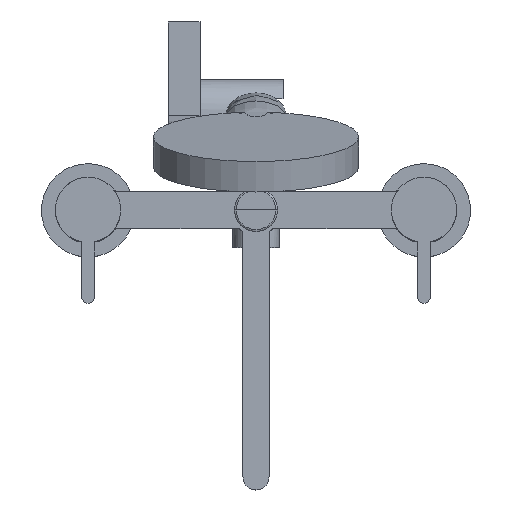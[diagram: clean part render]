
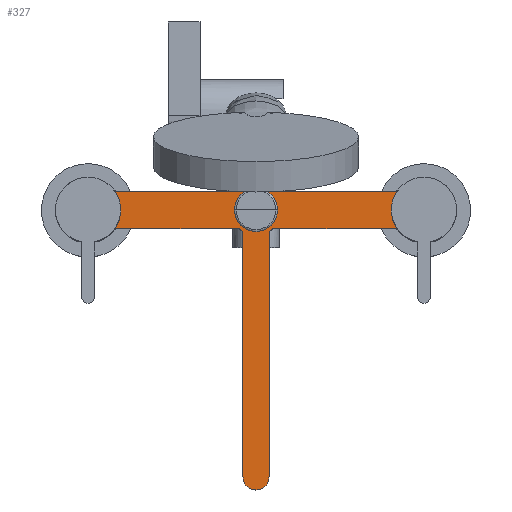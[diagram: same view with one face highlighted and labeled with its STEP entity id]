
A CAD part, top view. The second image highlights one B-rep face of the part: STEP entity #327.
In plain terms, the highlighted planar face has unit normal (0, 0, 1).
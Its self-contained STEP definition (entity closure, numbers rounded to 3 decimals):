
#327 = ADVANCED_FACE('',(#328),#469,.T.);
#328 = FACE_BOUND('',#329,.T.);
#329 = EDGE_LOOP('',(#330,#340,#349,#357,#366,#375,#384,#393,#401,#410,
    #419,#428,#437,#445,#454,#462));
#330 = ORIENTED_EDGE('',*,*,#331,.T.);
#331 = EDGE_CURVE('',#332,#334,#336,.T.);
#332 = VERTEX_POINT('',#333);
#333 = CARTESIAN_POINT('',(7.,-143.,120.));
#334 = VERTEX_POINT('',#335);
#335 = CARTESIAN_POINT('',(7.,-13.,
    120.));
#336 = LINE('',#337,#338);
#337 = CARTESIAN_POINT('',(7.,-143.,120.));
#338 = VECTOR('',#339,1.);
#339 = DIRECTION('',(0.,1.,0.));
#340 = ORIENTED_EDGE('',*,*,#341,.T.);
#341 = EDGE_CURVE('',#334,#342,#344,.T.);
#342 = VERTEX_POINT('',#343);
#343 = CARTESIAN_POINT('',(10.,-10.,
    120.));
#344 = CIRCLE('',#345,3.);
#345 = AXIS2_PLACEMENT_3D('',#346,#347,#348);
#346 = CARTESIAN_POINT('',(10.,-13.,
    120.));
#347 = DIRECTION('',(0.,0.,-1.));
#348 = DIRECTION('',(1.,0.,0.));
#349 = ORIENTED_EDGE('',*,*,#350,.T.);
#350 = EDGE_CURVE('',#342,#351,#353,.T.);
#351 = VERTEX_POINT('',#352);
#352 = CARTESIAN_POINT('',(74.188,-10.,
    120.));
#353 = LINE('',#354,#355);
#354 = CARTESIAN_POINT('',(10.,-10.,
    120.));
#355 = VECTOR('',#356,1.);
#356 = DIRECTION('',(1.,0.,0.));
#357 = ORIENTED_EDGE('',*,*,#358,.T.);
#358 = EDGE_CURVE('',#351,#359,#361,.T.);
#359 = VERTEX_POINT('',#360);
#360 = CARTESIAN_POINT('',(76.238,-10.81,
    120.));
#361 = CIRCLE('',#362,3.);
#362 = AXIS2_PLACEMENT_3D('',#363,#364,#365);
#363 = CARTESIAN_POINT('',(74.188,-13.,
    120.));
#364 = DIRECTION('',(0.,0.,-1.));
#365 = DIRECTION('',(1.,0.,0.));
#366 = ORIENTED_EDGE('',*,*,#367,.T.);
#367 = EDGE_CURVE('',#359,#368,#370,.T.);
#368 = VERTEX_POINT('',#369);
#369 = CARTESIAN_POINT('',(107.5,0.,120.));
#370 = CIRCLE('',#371,17.5);
#371 = AXIS2_PLACEMENT_3D('',#372,#373,#374);
#372 = CARTESIAN_POINT('',(90.,0.,
    120.));
#373 = DIRECTION('',(0.,0.,1.));
#374 = DIRECTION('',(1.,0.,-0.));
#375 = ORIENTED_EDGE('',*,*,#376,.T.);
#376 = EDGE_CURVE('',#368,#377,#379,.T.);
#377 = VERTEX_POINT('',#378);
#378 = CARTESIAN_POINT('',(76.238,10.81,
    120.));
#379 = CIRCLE('',#380,17.5);
#380 = AXIS2_PLACEMENT_3D('',#381,#382,#383);
#381 = CARTESIAN_POINT('',(90.,0.,
    120.));
#382 = DIRECTION('',(0.,0.,1.));
#383 = DIRECTION('',(1.,0.,-0.));
#384 = ORIENTED_EDGE('',*,*,#385,.T.);
#385 = EDGE_CURVE('',#377,#386,#388,.T.);
#386 = VERTEX_POINT('',#387);
#387 = CARTESIAN_POINT('',(74.188,10.,
    120.));
#388 = CIRCLE('',#389,3.);
#389 = AXIS2_PLACEMENT_3D('',#390,#391,#392);
#390 = CARTESIAN_POINT('',(74.188,13.,
    120.));
#391 = DIRECTION('',(0.,0.,-1.));
#392 = DIRECTION('',(1.,0.,0.));
#393 = ORIENTED_EDGE('',*,*,#394,.T.);
#394 = EDGE_CURVE('',#386,#395,#397,.T.);
#395 = VERTEX_POINT('',#396);
#396 = CARTESIAN_POINT('',(-74.149,10.,
    120.));
#397 = LINE('',#398,#399);
#398 = CARTESIAN_POINT('',(74.188,10.,
    120.));
#399 = VECTOR('',#400,1.);
#400 = DIRECTION('',(-1.,0.,0.));
#401 = ORIENTED_EDGE('',*,*,#402,.T.);
#402 = EDGE_CURVE('',#395,#403,#405,.T.);
#403 = VERTEX_POINT('',#404);
#404 = CARTESIAN_POINT('',(-76.469,11.098,
    120.));
#405 = CIRCLE('',#406,3.);
#406 = AXIS2_PLACEMENT_3D('',#407,#408,#409);
#407 = CARTESIAN_POINT('',(-74.149,13.,
    120.));
#408 = DIRECTION('',(0.,0.,-1.));
#409 = DIRECTION('',(1.,0.,0.));
#410 = ORIENTED_EDGE('',*,*,#411,.T.);
#411 = EDGE_CURVE('',#403,#412,#414,.T.);
#412 = VERTEX_POINT('',#413);
#413 = CARTESIAN_POINT('',(-107.5,0.,
    120.));
#414 = CIRCLE('',#415,17.5);
#415 = AXIS2_PLACEMENT_3D('',#416,#417,#418);
#416 = CARTESIAN_POINT('',(-90.,0.,
    120.));
#417 = DIRECTION('',(0.,0.,1.));
#418 = DIRECTION('',(1.,0.,-0.));
#419 = ORIENTED_EDGE('',*,*,#420,.T.);
#420 = EDGE_CURVE('',#412,#421,#423,.T.);
#421 = VERTEX_POINT('',#422);
#422 = CARTESIAN_POINT('',(-76.469,-11.098,
    120.));
#423 = CIRCLE('',#424,17.5);
#424 = AXIS2_PLACEMENT_3D('',#425,#426,#427);
#425 = CARTESIAN_POINT('',(-90.,0.,
    120.));
#426 = DIRECTION('',(0.,0.,1.));
#427 = DIRECTION('',(1.,0.,-0.));
#428 = ORIENTED_EDGE('',*,*,#429,.T.);
#429 = EDGE_CURVE('',#421,#430,#432,.T.);
#430 = VERTEX_POINT('',#431);
#431 = CARTESIAN_POINT('',(-74.149,-10.,
    120.));
#432 = CIRCLE('',#433,3.);
#433 = AXIS2_PLACEMENT_3D('',#434,#435,#436);
#434 = CARTESIAN_POINT('',(-74.149,-13.,
    120.));
#435 = DIRECTION('',(0.,0.,-1.));
#436 = DIRECTION('',(1.,0.,0.));
#437 = ORIENTED_EDGE('',*,*,#438,.T.);
#438 = EDGE_CURVE('',#430,#439,#441,.T.);
#439 = VERTEX_POINT('',#440);
#440 = CARTESIAN_POINT('',(-10.,-10.,120.));
#441 = LINE('',#442,#443);
#442 = CARTESIAN_POINT('',(-74.149,-10.,
    120.));
#443 = VECTOR('',#444,1.);
#444 = DIRECTION('',(1.,0.,0.));
#445 = ORIENTED_EDGE('',*,*,#446,.T.);
#446 = EDGE_CURVE('',#439,#447,#449,.T.);
#447 = VERTEX_POINT('',#448);
#448 = CARTESIAN_POINT('',(-7.,-13.,
    120.));
#449 = CIRCLE('',#450,3.);
#450 = AXIS2_PLACEMENT_3D('',#451,#452,#453);
#451 = CARTESIAN_POINT('',(-10.,-13.,120.));
#452 = DIRECTION('',(0.,0.,-1.));
#453 = DIRECTION('',(1.,0.,0.));
#454 = ORIENTED_EDGE('',*,*,#455,.T.);
#455 = EDGE_CURVE('',#447,#456,#458,.T.);
#456 = VERTEX_POINT('',#457);
#457 = CARTESIAN_POINT('',(-7.,-143.,120.));
#458 = LINE('',#459,#460);
#459 = CARTESIAN_POINT('',(-7.,-13.,
    120.));
#460 = VECTOR('',#461,1.);
#461 = DIRECTION('',(0.,-1.,0.));
#462 = ORIENTED_EDGE('',*,*,#463,.T.);
#463 = EDGE_CURVE('',#456,#332,#464,.T.);
#464 = CIRCLE('',#465,7.);
#465 = AXIS2_PLACEMENT_3D('',#466,#467,#468);
#466 = CARTESIAN_POINT('',(0.,-143.,120.));
#467 = DIRECTION('',(0.,0.,1.));
#468 = DIRECTION('',(1.,0.,-0.));
#469 = PLANE('',#470);
#470 = AXIS2_PLACEMENT_3D('',#471,#472,#473);
#471 = CARTESIAN_POINT('',(-72.5,0.,
    120.));
#472 = DIRECTION('',(0.,0.,1.));
#473 = DIRECTION('',(0.,1.,0.));
